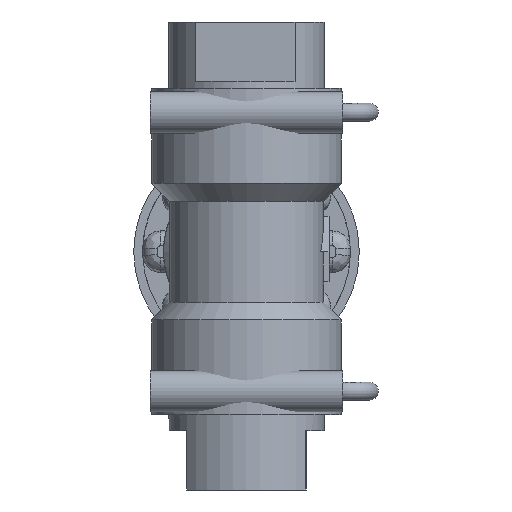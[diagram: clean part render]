
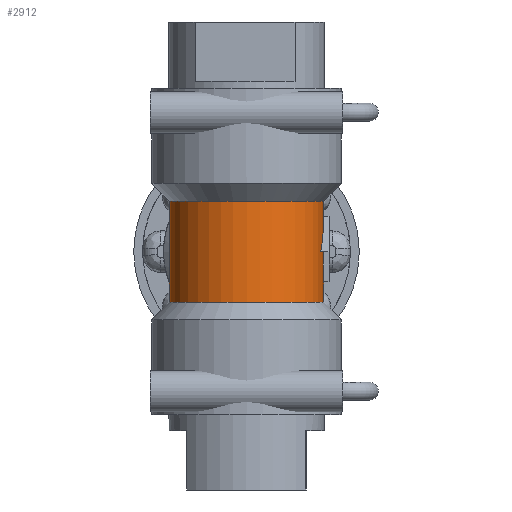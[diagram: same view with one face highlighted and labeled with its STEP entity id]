
A CAD part, front view. The second image highlights one B-rep face of the part: STEP entity #2912.
In plain terms, the highlighted cylindrical face has radius 13 mm (diameter 26 mm), a partial arc.
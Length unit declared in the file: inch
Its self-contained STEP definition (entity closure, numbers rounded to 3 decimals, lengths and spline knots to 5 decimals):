
#186=LINE('',#5082,#354);
#192=LINE('',#5222,#360);
#354=VECTOR('',#3810,0.2965);
#360=VECTOR('',#3864,0.2965);
#484=B_SPLINE_CURVE_WITH_KNOTS('',3,(#5175,#5176,#5177,#5178,#5179,#5180,
#5181,#5182),.UNSPECIFIED.,.F.,.F.,(4,2,2,4),(3.82711,3.88021,
4.29785,4.3294),.UNSPECIFIED.);
#485=B_SPLINE_CURVE_WITH_KNOTS('',3,(#5186,#5187,#5188,#5189,#5190,#5191,
#5192,#5193),.UNSPECIFIED.,.F.,.F.,(4,2,2,4),(2.59574,2.62729,
3.04493,3.09803),.UNSPECIFIED.);
#487=B_SPLINE_CURVE_WITH_KNOTS('',3,(#5200,#5201,#5202,#5203,#5204,#5205,
#5206,#5207),.UNSPECIFIED.,.F.,.F.,(4,2,2,4),(0.36454,0.41764,
0.83528,0.86683),.UNSPECIFIED.);
#488=B_SPLINE_CURVE_WITH_KNOTS('',3,(#5208,#5209,#5210,#5211,#5212,#5213,
#5214,#5215),.UNSPECIFIED.,.F.,.F.,(4,2,2,4),(6.05831,6.08986,
6.5075,6.5606),.UNSPECIFIED.);
#514=CYLINDRICAL_SURFACE('',#3234,0.51181);
#644=FACE_OUTER_BOUND('',#829,.T.);
#829=EDGE_LOOP('',(#2211,#2212,#2213,#2214,#2215,#2216,#2217,#2218));
#1070=CIRCLE('',#3221,0.51181);
#1080=CIRCLE('',#3235,0.51181);
#1300=VERTEX_POINT('',#5079);
#1301=VERTEX_POINT('',#5080);
#1308=VERTEX_POINT('',#5126);
#1309=VERTEX_POINT('',#5127);
#1316=VERTEX_POINT('',#5174);
#1317=VERTEX_POINT('',#5183);
#1318=VERTEX_POINT('',#5185);
#1319=VERTEX_POINT('',#5199);
#1631=EDGE_CURVE('',#1301,#1300,#186,.T.);
#1638=EDGE_CURVE('',#1308,#1309,#1070,.T.);
#1658=EDGE_CURVE('',#1316,#1309,#484,.T.);
#1660=EDGE_CURVE('',#1317,#1318,#485,.F.);
#1662=EDGE_CURVE('',#1300,#1319,#487,.T.);
#1663=EDGE_CURVE('',#1308,#1301,#488,.T.);
#1665=EDGE_CURVE('',#1319,#1318,#1080,.T.);
#1666=EDGE_CURVE('',#1317,#1316,#192,.T.);
#2211=ORIENTED_EDGE('',*,*,#1631,.T.);
#2212=ORIENTED_EDGE('',*,*,#1662,.T.);
#2213=ORIENTED_EDGE('',*,*,#1665,.T.);
#2214=ORIENTED_EDGE('',*,*,#1660,.F.);
#2215=ORIENTED_EDGE('',*,*,#1666,.T.);
#2216=ORIENTED_EDGE('',*,*,#1658,.T.);
#2217=ORIENTED_EDGE('',*,*,#1638,.F.);
#2218=ORIENTED_EDGE('',*,*,#1663,.T.);
#2912=ADVANCED_FACE('',(#644),#514,.T.);
#3221=AXIS2_PLACEMENT_3D('',#5128,#3829,#3830);
#3234=AXIS2_PLACEMENT_3D('',#5220,#3860,#3861);
#3235=AXIS2_PLACEMENT_3D('',#5221,#3862,#3863);
#3810=DIRECTION('',(0.,0.,-1.));
#3829=DIRECTION('center_axis',(0.,0.,1.));
#3830=DIRECTION('ref_axis',(-1.,0.,0.));
#3860=DIRECTION('center_axis',(0.,0.,1.));
#3861=DIRECTION('ref_axis',(-1.,0.,0.));
#3862=DIRECTION('center_axis',(0.,0.,1.));
#3863=DIRECTION('ref_axis',(-1.,0.,0.));
#3864=DIRECTION('',(0.,0.,1.));
#5079=CARTESIAN_POINT('',(-0.34937,0.37402,-0.14825));
#5080=CARTESIAN_POINT('',(-0.34937,0.37402,0.14825));
#5082=CARTESIAN_POINT('',(-0.34937,0.37402,0.));
#5126=CARTESIAN_POINT('',(-0.27815,0.42963,0.33465));
#5127=CARTESIAN_POINT('',(0.27815,0.42963,0.33465));
#5128=CARTESIAN_POINT('Origin',(0.,0.,0.33465));
#5174=CARTESIAN_POINT('',(0.34937,0.37402,0.14825));
#5175=CARTESIAN_POINT('Ctrl Pts',(0.34937,0.37402,0.14825));
#5176=CARTESIAN_POINT('Ctrl Pts',(0.34786,0.37543,0.15545));
#5177=CARTESIAN_POINT('Ctrl Pts',(0.34623,0.37694,0.16262));
#5178=CARTESIAN_POINT('Ctrl Pts',(0.33078,0.391,0.22577));
#5179=CARTESIAN_POINT('Ctrl Pts',(0.30983,0.40855,0.27905));
#5180=CARTESIAN_POINT('Ctrl Pts',(0.28221,0.42698,0.32775));
#5181=CARTESIAN_POINT('Ctrl Pts',(0.28021,0.4283,0.33119));
#5182=CARTESIAN_POINT('Ctrl Pts',(0.27815,0.42963,0.33465));
#5183=CARTESIAN_POINT('',(0.34937,0.37402,-0.14825));
#5185=CARTESIAN_POINT('',(0.27815,0.42963,-0.33465));
#5186=CARTESIAN_POINT('Ctrl Pts',(0.27815,0.42963,-0.33465));
#5187=CARTESIAN_POINT('Ctrl Pts',(0.28021,0.4283,-0.33119));
#5188=CARTESIAN_POINT('Ctrl Pts',(0.28221,0.42698,-0.32775));
#5189=CARTESIAN_POINT('Ctrl Pts',(0.30983,0.40855,-0.27905));
#5190=CARTESIAN_POINT('Ctrl Pts',(0.33078,0.391,-0.22577));
#5191=CARTESIAN_POINT('Ctrl Pts',(0.34623,0.37694,-0.16262));
#5192=CARTESIAN_POINT('Ctrl Pts',(0.34786,0.37543,-0.15545));
#5193=CARTESIAN_POINT('Ctrl Pts',(0.34937,0.37402,-0.14825));
#5199=CARTESIAN_POINT('',(-0.27815,0.42963,-0.33465));
#5200=CARTESIAN_POINT('Ctrl Pts',(-0.34937,0.37402,
-0.14825));
#5201=CARTESIAN_POINT('Ctrl Pts',(-0.34786,0.37543,
-0.15545));
#5202=CARTESIAN_POINT('Ctrl Pts',(-0.34623,0.37694,
-0.16262));
#5203=CARTESIAN_POINT('Ctrl Pts',(-0.33078,0.391,
-0.22577));
#5204=CARTESIAN_POINT('Ctrl Pts',(-0.30983,0.40855,-0.27905));
#5205=CARTESIAN_POINT('Ctrl Pts',(-0.28221,0.42698,-0.32775));
#5206=CARTESIAN_POINT('Ctrl Pts',(-0.28021,0.4283,
-0.33119));
#5207=CARTESIAN_POINT('Ctrl Pts',(-0.27815,0.42963,
-0.33465));
#5208=CARTESIAN_POINT('Ctrl Pts',(-0.27815,0.42963,
0.33465));
#5209=CARTESIAN_POINT('Ctrl Pts',(-0.28021,0.4283,
0.33119));
#5210=CARTESIAN_POINT('Ctrl Pts',(-0.28221,0.42698,0.32775));
#5211=CARTESIAN_POINT('Ctrl Pts',(-0.30983,0.40855,0.27905));
#5212=CARTESIAN_POINT('Ctrl Pts',(-0.33078,0.391,
0.22577));
#5213=CARTESIAN_POINT('Ctrl Pts',(-0.34623,0.37694,
0.16262));
#5214=CARTESIAN_POINT('Ctrl Pts',(-0.34786,0.37543,
0.15545));
#5215=CARTESIAN_POINT('Ctrl Pts',(-0.34937,0.37402,
0.14825));
#5220=CARTESIAN_POINT('Origin',(0.,0.,0.));
#5221=CARTESIAN_POINT('Origin',(0.,0.,-0.33465));
#5222=CARTESIAN_POINT('',(0.34937,0.37402,0.));
